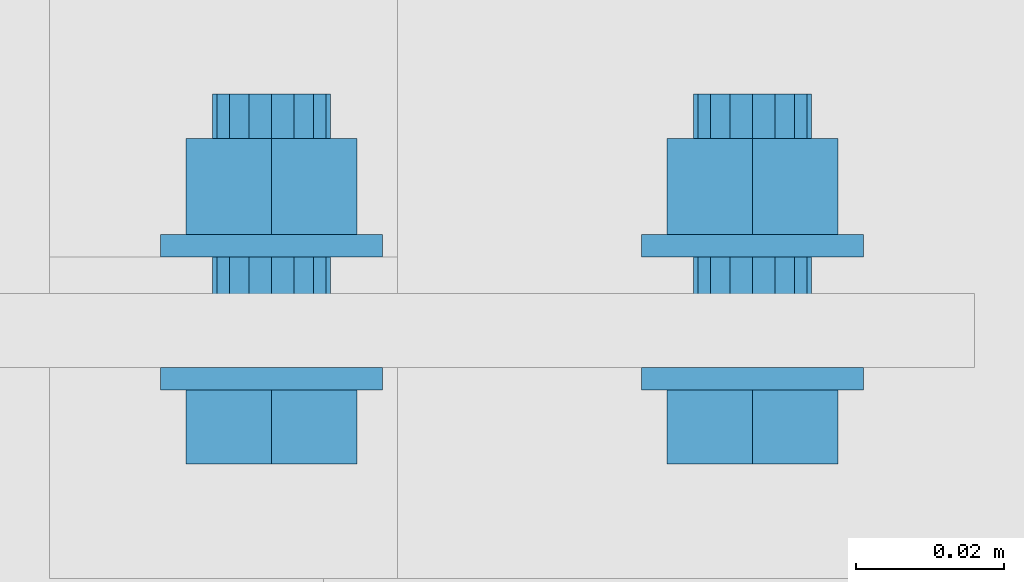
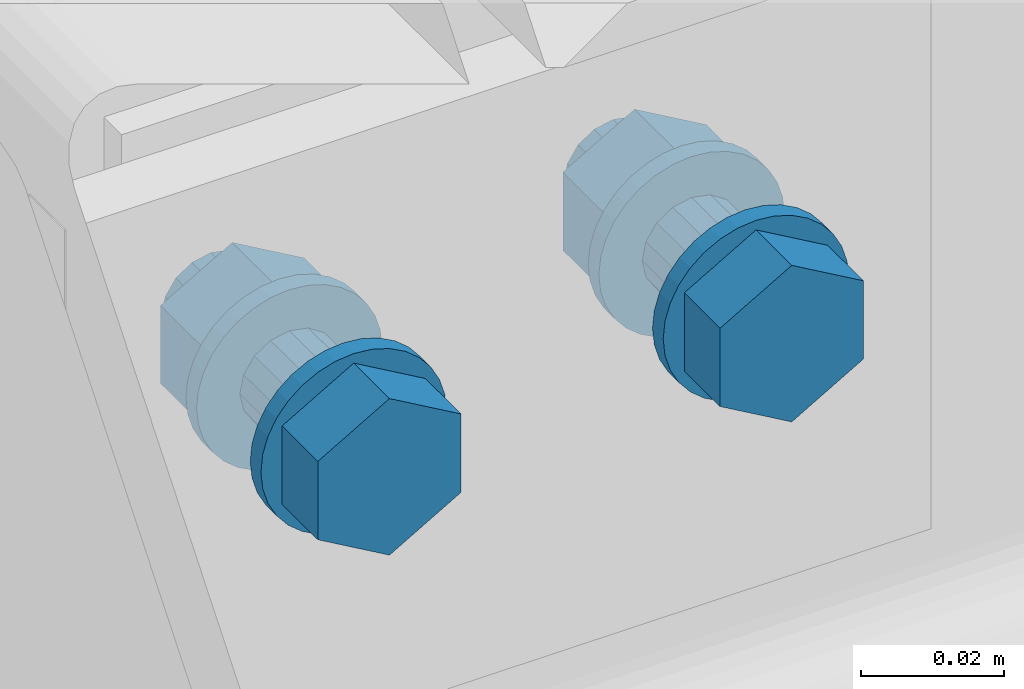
# One storey, part 171 of 410: 1 mechanical fastener.
"""IFC2X3 building model written with IfcOpenShell, lengths in millimetres."""

from ifc_helpers import new_model, entity, si_unit, converted_unit, origin_with_axes, place, context, project, spatial, faceted_brep, element, save


model = new_model("IFC2X3")

# Units and contexts
model_context = context("Model", 3, precision=1e-09, world=origin_with_axes())
ifc_project = project(units=[si_unit("LENGTHUNIT", "METRE", prefix="MILLI"), si_unit("AREAUNIT", "SQUARE_METRE"), si_unit("VOLUMEUNIT", "CUBIC_METRE"), converted_unit("PLANEANGLEUNIT", "DEGREE", entity("IfcPlaneAngleMeasure", 0.01745329), si_unit("PLANEANGLEUNIT", "RADIAN"), dimensions=[0, 0, 0, 0, 0, 0, 0])], contexts=[model_context])

# Site, building, storey
site_placement = place(None, origin_with_axes())
site = spatial("IfcSite", under=ifc_project, at=site_placement, Name="mKR Teilneubau & Sanierung BA1 - Ostfildern", CompositionType="ELEMENT")
building_placement = place(site_placement, origin_with_axes())
building = spatial("IfcBuilding", under=site, at=building_placement, Name="Struktur 1", CompositionType="ELEMENT")
storey_placement = place(building_placement, origin_with_axes())
storey = spatial("IfcBuildingStorey", under=building, at=storey_placement, Name="Default Storey", CompositionType="ELEMENT", Elevation=0.0)

# Mechanical fastener
mechanical_fastener_placement = place(None, origin_with_axes())
element("IfcMechanicalFastener", 1, at=mechanical_fastener_placement, inside=storey, ObjectType="-", NominalDiameter=16.0, NominalLength=40.0, context=model_context, shape_type="Brep", body=[
    faceted_brep([(1977.951468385, 16964.5, 5785.0), (1977.951468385, 16967.5, 5785.0), (1978.239689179, 16967.5, 5782.07364517), (1978.239689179, 16964.5, 5782.07364517), (1979.093275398, 16967.5, 5779.259748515), (1979.093275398, 16964.5, 5779.259748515), (1980.479424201, 16967.5, 5776.666446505), (1980.479424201, 16964.5, 5776.666446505), (1982.344866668, 16967.5, 5774.393398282), (1982.344866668, 16964.5, 5774.393398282), (1984.61791489, 16967.5, 5772.527955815), (1984.61791489, 16964.5, 5772.527955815), (1987.2112169, 16967.5, 5771.141807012), (1987.2112169, 16964.5, 5771.141807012), (1990.025113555, 16967.5, 5770.288220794), (1990.025113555, 16964.5, 5770.288220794), (1992.951468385, 16967.5, 5770.0), (1992.951468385, 16964.5, 5770.0), (1995.877823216, 16967.5, 5770.288220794), (1995.877823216, 16964.5, 5770.288220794), (1998.691719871, 16967.5, 5771.141807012), (1998.691719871, 16964.5, 5771.141807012), (2001.285021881, 16967.5, 5772.527955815), (2001.285021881, 16964.5, 5772.527955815), (2003.558070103, 16967.5, 5774.393398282), (2003.558070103, 16964.5, 5774.393398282), (2005.42351257, 16967.5, 5776.666446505), (2005.42351257, 16964.5, 5776.666446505), (2006.809661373, 16967.5, 5779.259748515), (2006.809661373, 16964.5, 5779.259748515), (2007.663247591, 16967.5, 5782.07364517), (2007.663247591, 16964.5, 5782.07364517), (2007.951468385, 16967.5, 5785.0), (2007.951468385, 16964.5, 5785.0), (2007.663247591, 16967.5, 5787.92635483), (2007.663247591, 16964.5, 5787.92635483), (2006.809661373, 16967.5, 5790.740251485), (2006.809661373, 16964.5, 5790.740251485), (2005.42351257, 16967.5, 5793.333553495), (2005.42351257, 16964.5, 5793.333553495), (2003.558070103, 16967.5, 5795.606601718), (2003.558070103, 16964.5, 5795.606601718), (2001.285021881, 16967.5, 5797.472044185), (2001.285021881, 16964.5, 5797.472044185), (1998.691719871, 16967.5, 5798.858192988), (1998.691719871, 16964.5, 5798.858192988), (1995.877823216, 16967.5, 5799.711779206), (1995.877823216, 16964.5, 5799.711779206), (1992.951468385, 16967.5, 5800.0), (1992.951468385, 16964.5, 5800.0), (1990.025113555, 16967.5, 5799.711779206), (1990.025113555, 16964.5, 5799.711779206), (1987.2112169, 16967.5, 5798.858192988), (1987.2112169, 16964.5, 5798.858192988), (1984.61791489, 16967.5, 5797.472044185), (1984.61791489, 16964.5, 5797.472044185), (1982.344866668, 16967.5, 5795.606601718), (1982.344866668, 16964.5, 5795.606601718), (1980.479424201, 16967.5, 5793.333553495), (1980.479424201, 16964.5, 5793.333553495), (1979.093275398, 16967.5, 5790.740251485), (1979.093275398, 16964.5, 5790.740251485), (1978.239689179, 16967.5, 5787.92635483), (1978.239689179, 16964.5, 5787.92635483)], [[[0, 1, 2, 3]], [[3, 2, 4, 5]], [[5, 4, 6, 7]], [[7, 6, 8, 9]], [[9, 8, 10, 11]], [[11, 10, 12, 13]], [[13, 12, 14, 15]], [[15, 14, 16, 17]], [[17, 16, 18, 19]], [[19, 18, 20, 21]], [[21, 20, 22, 23]], [[23, 22, 24, 25]], [[25, 24, 26, 27]], [[27, 26, 28, 29]], [[29, 28, 30, 31]], [[31, 30, 32, 33]], [[33, 32, 34, 35]], [[35, 34, 36, 37]], [[37, 36, 38, 39]], [[39, 38, 40, 41]], [[41, 40, 42, 43]], [[43, 42, 44, 45]], [[45, 44, 46, 47]], [[47, 46, 48, 49]], [[49, 48, 50, 51]], [[51, 50, 52, 53]], [[53, 52, 54, 55]], [[55, 54, 56, 57]], [[57, 56, 58, 59]], [[59, 58, 60, 61]], [[61, 60, 62, 63]], [[63, 62, 1, 0]], [[0, 3, 5, 7, 9, 11, 13, 15, 17, 19, 21, 23, 25, 27, 29, 31, 33, 35, 37, 39, 41, 43, 45, 47, 49, 51, 53, 55, 57, 59, 61, 63]], [[1, 62, 60, 58, 56, 54, 52, 50, 48, 46, 44, 42, 40, 38, 36, 34, 32, 30, 28, 26, 24, 22, 20, 18, 16, 14, 12, 10, 8, 6, 4, 2]]]),
    faceted_brep([(1912.951468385, 16964.5, 5785.0), (1912.951468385, 16967.5, 5785.0), (1913.239689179, 16967.5, 5782.07364517), (1913.239689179, 16964.5, 5782.07364517), (1914.093275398, 16967.5, 5779.259748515), (1914.093275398, 16964.5, 5779.259748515), (1915.479424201, 16967.5, 5776.666446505), (1915.479424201, 16964.5, 5776.666446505), (1917.344866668, 16967.5, 5774.393398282), (1917.344866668, 16964.5, 5774.393398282), (1919.61791489, 16967.5, 5772.527955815), (1919.61791489, 16964.5, 5772.527955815), (1922.2112169, 16967.5, 5771.141807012), (1922.2112169, 16964.5, 5771.141807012), (1925.025113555, 16967.5, 5770.288220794), (1925.025113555, 16964.5, 5770.288220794), (1927.951468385, 16967.5, 5770.0), (1927.951468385, 16964.5, 5770.0), (1930.877823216, 16967.5, 5770.288220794), (1930.877823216, 16964.5, 5770.288220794), (1933.691719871, 16967.5, 5771.141807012), (1933.691719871, 16964.5, 5771.141807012), (1936.285021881, 16967.5, 5772.527955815), (1936.285021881, 16964.5, 5772.527955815), (1938.558070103, 16967.5, 5774.393398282), (1938.558070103, 16964.5, 5774.393398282), (1940.42351257, 16967.5, 5776.666446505), (1940.42351257, 16964.5, 5776.666446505), (1941.809661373, 16967.5, 5779.259748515), (1941.809661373, 16964.5, 5779.259748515), (1942.663247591, 16967.5, 5782.07364517), (1942.663247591, 16964.5, 5782.07364517), (1942.951468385, 16967.5, 5785.0), (1942.951468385, 16964.5, 5785.0), (1942.663247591, 16967.5, 5787.92635483), (1942.663247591, 16964.5, 5787.92635483), (1941.809661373, 16967.5, 5790.740251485), (1941.809661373, 16964.5, 5790.740251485), (1940.42351257, 16967.5, 5793.333553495), (1940.42351257, 16964.5, 5793.333553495), (1938.558070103, 16967.5, 5795.606601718), (1938.558070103, 16964.5, 5795.606601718), (1936.285021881, 16967.5, 5797.472044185), (1936.285021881, 16964.5, 5797.472044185), (1933.691719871, 16967.5, 5798.858192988), (1933.691719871, 16964.5, 5798.858192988), (1930.877823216, 16967.5, 5799.711779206), (1930.877823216, 16964.5, 5799.711779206), (1927.951468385, 16967.5, 5800.0), (1927.951468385, 16964.5, 5800.0), (1925.025113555, 16967.5, 5799.711779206), (1925.025113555, 16964.5, 5799.711779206), (1922.2112169, 16967.5, 5798.858192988), (1922.2112169, 16964.5, 5798.858192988), (1919.61791489, 16967.5, 5797.472044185), (1919.61791489, 16964.5, 5797.472044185), (1917.344866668, 16967.5, 5795.606601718), (1917.344866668, 16964.5, 5795.606601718), (1915.479424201, 16967.5, 5793.333553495), (1915.479424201, 16964.5, 5793.333553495), (1914.093275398, 16967.5, 5790.740251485), (1914.093275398, 16964.5, 5790.740251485), (1913.239689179, 16967.5, 5787.92635483), (1913.239689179, 16964.5, 5787.92635483)], [[[0, 1, 2, 3]], [[3, 2, 4, 5]], [[5, 4, 6, 7]], [[7, 6, 8, 9]], [[9, 8, 10, 11]], [[11, 10, 12, 13]], [[13, 12, 14, 15]], [[15, 14, 16, 17]], [[17, 16, 18, 19]], [[19, 18, 20, 21]], [[21, 20, 22, 23]], [[23, 22, 24, 25]], [[25, 24, 26, 27]], [[27, 26, 28, 29]], [[29, 28, 30, 31]], [[31, 30, 32, 33]], [[33, 32, 34, 35]], [[35, 34, 36, 37]], [[37, 36, 38, 39]], [[39, 38, 40, 41]], [[41, 40, 42, 43]], [[43, 42, 44, 45]], [[45, 44, 46, 47]], [[47, 46, 48, 49]], [[49, 48, 50, 51]], [[51, 50, 52, 53]], [[53, 52, 54, 55]], [[55, 54, 56, 57]], [[57, 56, 58, 59]], [[59, 58, 60, 61]], [[61, 60, 62, 63]], [[63, 62, 1, 0]], [[0, 3, 5, 7, 9, 11, 13, 15, 17, 19, 21, 23, 25, 27, 29, 31, 33, 35, 37, 39, 41, 43, 45, 47, 49, 51, 53, 55, 57, 59, 61, 63]], [[1, 62, 60, 58, 56, 54, 52, 50, 48, 46, 44, 42, 40, 38, 36, 34, 32, 30, 28, 26, 24, 22, 20, 18, 16, 14, 12, 10, 8, 6, 4, 2]]]),
    faceted_brep([(2004.534558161, 16964.5, 5778.3125), (2004.534558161, 16954.5, 5778.3125), (1992.951468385, 16954.5, 5771.625), (1992.951468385, 16964.5, 5771.625), (1981.36837861, 16954.5, 5778.3125), (1981.36837861, 16964.5, 5778.3125), (1981.36837861, 16954.5, 5791.6875), (1981.36837861, 16964.5, 5791.6875), (1992.951468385, 16954.5, 5798.375), (1992.951468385, 16964.5, 5798.375), (2004.534558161, 16954.5, 5791.6875), (2004.534558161, 16964.5, 5791.6875)], [[[0, 1, 2, 3]], [[3, 2, 4, 5]], [[5, 4, 6, 7]], [[7, 6, 8, 9]], [[9, 8, 10, 11]], [[11, 10, 1, 0]], [[4, 2, 1, 10, 8, 6]], [[0, 3, 5, 7, 9, 11]]]),
    faceted_brep([(1939.534558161, 16964.5, 5778.3125), (1939.534558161, 16954.5, 5778.3125), (1927.951468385, 16954.5, 5771.625), (1927.951468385, 16964.5, 5771.625), (1916.36837861, 16954.5, 5778.3125), (1916.36837861, 16964.5, 5778.3125), (1916.36837861, 16954.5, 5791.6875), (1916.36837861, 16964.5, 5791.6875), (1927.951468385, 16954.5, 5798.375), (1927.951468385, 16964.5, 5798.375), (1939.534558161, 16954.5, 5791.6875), (1939.534558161, 16964.5, 5791.6875)], [[[0, 1, 2, 3]], [[3, 2, 4, 5]], [[5, 4, 6, 7]], [[7, 6, 8, 9]], [[9, 8, 10, 11]], [[11, 10, 1, 0]], [[4, 2, 1, 10, 8, 6]], [[0, 3, 5, 7, 9, 11]]]),
    faceted_brep([(1984.951468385, 16967.5, 5785.0), (1984.951468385, 16982.5, 5785.0), (1985.560432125, 16982.5, 5781.938532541), (1985.560432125, 16967.5, 5781.938532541), (1987.294614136, 16982.5, 5779.34314575), (1987.294614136, 16967.5, 5779.34314575), (1989.890000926, 16982.5, 5777.60896374), (1989.890000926, 16967.5, 5777.60896374), (1992.951468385, 16982.5, 5777.0), (1992.951468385, 16967.5, 5777.0), (1996.012935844, 16982.5, 5777.60896374), (1996.012935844, 16967.5, 5777.60896374), (1998.608322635, 16982.5, 5779.34314575), (1998.608322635, 16967.5, 5779.34314575), (2000.342504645, 16982.5, 5781.938532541), (2000.342504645, 16967.5, 5781.938532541), (2000.951468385, 16982.5, 5785.0), (2000.951468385, 16967.5, 5785.0), (2000.342504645, 16982.5, 5788.061467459), (2000.342504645, 16967.5, 5788.061467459), (1998.608322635, 16982.5, 5790.656854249), (1998.608322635, 16967.5, 5790.656854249), (1996.012935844, 16982.5, 5792.39103626), (1996.012935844, 16967.5, 5792.39103626), (1992.951468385, 16982.5, 5793.0), (1992.951468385, 16967.5, 5793.0), (1989.890000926, 16982.5, 5792.39103626), (1989.890000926, 16967.5, 5792.39103626), (1987.294614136, 16982.5, 5790.656854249), (1987.294614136, 16967.5, 5790.656854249), (1985.560432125, 16982.5, 5788.061467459), (1985.560432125, 16967.5, 5788.061467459)], [[[0, 1, 2, 3]], [[3, 2, 4, 5]], [[5, 4, 6, 7]], [[7, 6, 8, 9]], [[9, 8, 10, 11]], [[11, 10, 12, 13]], [[13, 12, 14, 15]], [[15, 14, 16, 17]], [[17, 16, 18, 19]], [[19, 18, 20, 21]], [[21, 20, 22, 23]], [[23, 22, 24, 25]], [[25, 24, 26, 27]], [[27, 26, 28, 29]], [[29, 28, 30, 31]], [[31, 30, 1, 0]], [[0, 3, 5, 7, 9, 11, 13, 15, 17, 19, 21, 23, 25, 27, 29, 31]], [[1, 30, 28, 26, 24, 22, 20, 18, 16, 14, 12, 10, 8, 6, 4, 2]]]),
    faceted_brep([(1919.951468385, 16967.5, 5785.0), (1919.951468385, 16982.5, 5785.0), (1920.560432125, 16982.5, 5781.938532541), (1920.560432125, 16967.5, 5781.938532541), (1922.294614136, 16982.5, 5779.34314575), (1922.294614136, 16967.5, 5779.34314575), (1924.890000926, 16982.5, 5777.60896374), (1924.890000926, 16967.5, 5777.60896374), (1927.951468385, 16982.5, 5777.0), (1927.951468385, 16967.5, 5777.0), (1931.012935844, 16982.5, 5777.60896374), (1931.012935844, 16967.5, 5777.60896374), (1933.608322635, 16982.5, 5779.34314575), (1933.608322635, 16967.5, 5779.34314575), (1935.342504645, 16982.5, 5781.938532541), (1935.342504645, 16967.5, 5781.938532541), (1935.951468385, 16982.5, 5785.0), (1935.951468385, 16967.5, 5785.0), (1935.342504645, 16982.5, 5788.061467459), (1935.342504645, 16967.5, 5788.061467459), (1933.608322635, 16982.5, 5790.656854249), (1933.608322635, 16967.5, 5790.656854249), (1931.012935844, 16982.5, 5792.39103626), (1931.012935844, 16967.5, 5792.39103626), (1927.951468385, 16982.5, 5793.0), (1927.951468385, 16967.5, 5793.0), (1924.890000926, 16982.5, 5792.39103626), (1924.890000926, 16967.5, 5792.39103626), (1922.294614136, 16982.5, 5790.656854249), (1922.294614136, 16967.5, 5790.656854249), (1920.560432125, 16982.5, 5788.061467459), (1920.560432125, 16967.5, 5788.061467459)], [[[0, 1, 2, 3]], [[3, 2, 4, 5]], [[5, 4, 6, 7]], [[7, 6, 8, 9]], [[9, 8, 10, 11]], [[11, 10, 12, 13]], [[13, 12, 14, 15]], [[15, 14, 16, 17]], [[17, 16, 18, 19]], [[19, 18, 20, 21]], [[21, 20, 22, 23]], [[23, 22, 24, 25]], [[25, 24, 26, 27]], [[27, 26, 28, 29]], [[29, 28, 30, 31]], [[31, 30, 1, 0]], [[0, 3, 5, 7, 9, 11, 13, 15, 17, 19, 21, 23, 25, 27, 29, 31]], [[1, 30, 28, 26, 24, 22, 20, 18, 16, 14, 12, 10, 8, 6, 4, 2]]]),
    faceted_brep([(1977.951468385, 16982.5, 5785.0), (1977.951468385, 16985.5, 5785.0), (1978.239689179, 16985.5, 5782.07364517), (1978.239689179, 16982.5, 5782.07364517), (1979.093275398, 16985.5, 5779.259748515), (1979.093275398, 16982.5, 5779.259748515), (1980.479424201, 16985.5, 5776.666446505), (1980.479424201, 16982.5, 5776.666446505), (1982.344866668, 16985.5, 5774.393398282), (1982.344866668, 16982.5, 5774.393398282), (1984.61791489, 16985.5, 5772.527955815), (1984.61791489, 16982.5, 5772.527955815), (1987.2112169, 16985.5, 5771.141807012), (1987.2112169, 16982.5, 5771.141807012), (1990.025113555, 16985.5, 5770.288220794), (1990.025113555, 16982.5, 5770.288220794), (1992.951468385, 16985.5, 5770.0), (1992.951468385, 16982.5, 5770.0), (1995.877823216, 16985.5, 5770.288220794), (1995.877823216, 16982.5, 5770.288220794), (1998.691719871, 16985.5, 5771.141807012), (1998.691719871, 16982.5, 5771.141807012), (2001.285021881, 16985.5, 5772.527955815), (2001.285021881, 16982.5, 5772.527955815), (2003.558070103, 16985.5, 5774.393398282), (2003.558070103, 16982.5, 5774.393398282), (2005.42351257, 16985.5, 5776.666446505), (2005.42351257, 16982.5, 5776.666446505), (2006.809661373, 16985.5, 5779.259748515), (2006.809661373, 16982.5, 5779.259748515), (2007.663247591, 16985.5, 5782.07364517), (2007.663247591, 16982.5, 5782.07364517), (2007.951468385, 16985.5, 5785.0), (2007.951468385, 16982.5, 5785.0), (2007.663247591, 16985.5, 5787.92635483), (2007.663247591, 16982.5, 5787.92635483), (2006.809661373, 16985.5, 5790.740251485), (2006.809661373, 16982.5, 5790.740251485), (2005.42351257, 16985.5, 5793.333553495), (2005.42351257, 16982.5, 5793.333553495), (2003.558070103, 16985.5, 5795.606601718), (2003.558070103, 16982.5, 5795.606601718), (2001.285021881, 16985.5, 5797.472044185), (2001.285021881, 16982.5, 5797.472044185), (1998.691719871, 16985.5, 5798.858192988), (1998.691719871, 16982.5, 5798.858192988), (1995.877823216, 16985.5, 5799.711779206), (1995.877823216, 16982.5, 5799.711779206), (1992.951468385, 16985.5, 5800.0), (1992.951468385, 16982.5, 5800.0), (1990.025113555, 16985.5, 5799.711779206), (1990.025113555, 16982.5, 5799.711779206), (1987.2112169, 16985.5, 5798.858192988), (1987.2112169, 16982.5, 5798.858192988), (1984.61791489, 16985.5, 5797.472044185), (1984.61791489, 16982.5, 5797.472044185), (1982.344866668, 16985.5, 5795.606601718), (1982.344866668, 16982.5, 5795.606601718), (1980.479424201, 16985.5, 5793.333553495), (1980.479424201, 16982.5, 5793.333553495), (1979.093275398, 16985.5, 5790.740251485), (1979.093275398, 16982.5, 5790.740251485), (1978.239689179, 16985.5, 5787.92635483), (1978.239689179, 16982.5, 5787.92635483)], [[[0, 1, 2, 3]], [[3, 2, 4, 5]], [[5, 4, 6, 7]], [[7, 6, 8, 9]], [[9, 8, 10, 11]], [[11, 10, 12, 13]], [[13, 12, 14, 15]], [[15, 14, 16, 17]], [[17, 16, 18, 19]], [[19, 18, 20, 21]], [[21, 20, 22, 23]], [[23, 22, 24, 25]], [[25, 24, 26, 27]], [[27, 26, 28, 29]], [[29, 28, 30, 31]], [[31, 30, 32, 33]], [[33, 32, 34, 35]], [[35, 34, 36, 37]], [[37, 36, 38, 39]], [[39, 38, 40, 41]], [[41, 40, 42, 43]], [[43, 42, 44, 45]], [[45, 44, 46, 47]], [[47, 46, 48, 49]], [[49, 48, 50, 51]], [[51, 50, 52, 53]], [[53, 52, 54, 55]], [[55, 54, 56, 57]], [[57, 56, 58, 59]], [[59, 58, 60, 61]], [[61, 60, 62, 63]], [[63, 62, 1, 0]], [[0, 3, 5, 7, 9, 11, 13, 15, 17, 19, 21, 23, 25, 27, 29, 31, 33, 35, 37, 39, 41, 43, 45, 47, 49, 51, 53, 55, 57, 59, 61, 63]], [[1, 62, 60, 58, 56, 54, 52, 50, 48, 46, 44, 42, 40, 38, 36, 34, 32, 30, 28, 26, 24, 22, 20, 18, 16, 14, 12, 10, 8, 6, 4, 2]]]),
    faceted_brep([(1912.951468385, 16982.5, 5785.0), (1912.951468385, 16985.5, 5785.0), (1913.239689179, 16985.5, 5782.07364517), (1913.239689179, 16982.5, 5782.07364517), (1914.093275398, 16985.5, 5779.259748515), (1914.093275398, 16982.5, 5779.259748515), (1915.479424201, 16985.5, 5776.666446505), (1915.479424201, 16982.5, 5776.666446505), (1917.344866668, 16985.5, 5774.393398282), (1917.344866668, 16982.5, 5774.393398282), (1919.61791489, 16985.5, 5772.527955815), (1919.61791489, 16982.5, 5772.527955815), (1922.2112169, 16985.5, 5771.141807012), (1922.2112169, 16982.5, 5771.141807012), (1925.025113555, 16985.5, 5770.288220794), (1925.025113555, 16982.5, 5770.288220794), (1927.951468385, 16985.5, 5770.0), (1927.951468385, 16982.5, 5770.0), (1930.877823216, 16985.5, 5770.288220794), (1930.877823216, 16982.5, 5770.288220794), (1933.691719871, 16985.5, 5771.141807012), (1933.691719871, 16982.5, 5771.141807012), (1936.285021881, 16985.5, 5772.527955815), (1936.285021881, 16982.5, 5772.527955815), (1938.558070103, 16985.5, 5774.393398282), (1938.558070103, 16982.5, 5774.393398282), (1940.42351257, 16985.5, 5776.666446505), (1940.42351257, 16982.5, 5776.666446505), (1941.809661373, 16985.5, 5779.259748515), (1941.809661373, 16982.5, 5779.259748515), (1942.663247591, 16985.5, 5782.07364517), (1942.663247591, 16982.5, 5782.07364517), (1942.951468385, 16985.5, 5785.0), (1942.951468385, 16982.5, 5785.0), (1942.663247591, 16985.5, 5787.92635483), (1942.663247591, 16982.5, 5787.92635483), (1941.809661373, 16985.5, 5790.740251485), (1941.809661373, 16982.5, 5790.740251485), (1940.42351257, 16985.5, 5793.333553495), (1940.42351257, 16982.5, 5793.333553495), (1938.558070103, 16985.5, 5795.606601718), (1938.558070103, 16982.5, 5795.606601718), (1936.285021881, 16985.5, 5797.472044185), (1936.285021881, 16982.5, 5797.472044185), (1933.691719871, 16985.5, 5798.858192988), (1933.691719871, 16982.5, 5798.858192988), (1930.877823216, 16985.5, 5799.711779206), (1930.877823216, 16982.5, 5799.711779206), (1927.951468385, 16985.5, 5800.0), (1927.951468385, 16982.5, 5800.0), (1925.025113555, 16985.5, 5799.711779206), (1925.025113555, 16982.5, 5799.711779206), (1922.2112169, 16985.5, 5798.858192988), (1922.2112169, 16982.5, 5798.858192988), (1919.61791489, 16985.5, 5797.472044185), (1919.61791489, 16982.5, 5797.472044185), (1917.344866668, 16985.5, 5795.606601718), (1917.344866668, 16982.5, 5795.606601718), (1915.479424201, 16985.5, 5793.333553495), (1915.479424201, 16982.5, 5793.333553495), (1914.093275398, 16985.5, 5790.740251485), (1914.093275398, 16982.5, 5790.740251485), (1913.239689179, 16985.5, 5787.92635483), (1913.239689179, 16982.5, 5787.92635483)], [[[0, 1, 2, 3]], [[3, 2, 4, 5]], [[5, 4, 6, 7]], [[7, 6, 8, 9]], [[9, 8, 10, 11]], [[11, 10, 12, 13]], [[13, 12, 14, 15]], [[15, 14, 16, 17]], [[17, 16, 18, 19]], [[19, 18, 20, 21]], [[21, 20, 22, 23]], [[23, 22, 24, 25]], [[25, 24, 26, 27]], [[27, 26, 28, 29]], [[29, 28, 30, 31]], [[31, 30, 32, 33]], [[33, 32, 34, 35]], [[35, 34, 36, 37]], [[37, 36, 38, 39]], [[39, 38, 40, 41]], [[41, 40, 42, 43]], [[43, 42, 44, 45]], [[45, 44, 46, 47]], [[47, 46, 48, 49]], [[49, 48, 50, 51]], [[51, 50, 52, 53]], [[53, 52, 54, 55]], [[55, 54, 56, 57]], [[57, 56, 58, 59]], [[59, 58, 60, 61]], [[61, 60, 62, 63]], [[63, 62, 1, 0]], [[0, 3, 5, 7, 9, 11, 13, 15, 17, 19, 21, 23, 25, 27, 29, 31, 33, 35, 37, 39, 41, 43, 45, 47, 49, 51, 53, 55, 57, 59, 61, 63]], [[1, 62, 60, 58, 56, 54, 52, 50, 48, 46, 44, 42, 40, 38, 36, 34, 32, 30, 28, 26, 24, 22, 20, 18, 16, 14, 12, 10, 8, 6, 4, 2]]]),
    faceted_brep([(2004.534558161, 16998.5, 5778.3125), (2004.534558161, 16985.5, 5778.3125), (1992.951468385, 16985.5, 5771.625), (1992.951468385, 16998.5, 5771.625), (1981.36837861, 16985.5, 5778.3125), (1981.36837861, 16998.5, 5778.3125), (1981.36837861, 16985.5, 5791.6875), (1981.36837861, 16998.5, 5791.6875), (1992.951468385, 16985.5, 5798.375), (1992.951468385, 16998.5, 5798.375), (2004.534558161, 16985.5, 5791.6875), (2004.534558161, 16998.5, 5791.6875)], [[[0, 1, 2, 3]], [[3, 2, 4, 5]], [[5, 4, 6, 7]], [[7, 6, 8, 9]], [[9, 8, 10, 11]], [[11, 10, 1, 0]], [[4, 2, 1, 10, 8, 6]], [[0, 3, 5, 7, 9, 11]]]),
    faceted_brep([(1939.534558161, 16998.5, 5778.3125), (1939.534558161, 16985.5, 5778.3125), (1927.951468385, 16985.5, 5771.625), (1927.951468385, 16998.5, 5771.625), (1916.36837861, 16985.5, 5778.3125), (1916.36837861, 16998.5, 5778.3125), (1916.36837861, 16985.5, 5791.6875), (1916.36837861, 16998.5, 5791.6875), (1927.951468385, 16985.5, 5798.375), (1927.951468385, 16998.5, 5798.375), (1939.534558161, 16985.5, 5791.6875), (1939.534558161, 16998.5, 5791.6875)], [[[0, 1, 2, 3]], [[3, 2, 4, 5]], [[5, 4, 6, 7]], [[7, 6, 8, 9]], [[9, 8, 10, 11]], [[11, 10, 1, 0]], [[4, 2, 1, 10, 8, 6]], [[0, 3, 5, 7, 9, 11]]]),
    faceted_brep([(1984.951468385, 16998.499675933, 5785.0), (1984.951468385, 17004.5, 5785.0), (1985.560432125, 17004.5, 5781.938532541), (1985.560432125, 16998.499675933, 5781.938532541), (1987.294614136, 17004.5, 5779.34314575), (1987.294614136, 16998.499675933, 5779.34314575), (1989.890000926, 17004.5, 5777.60896374), (1989.890000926, 16998.499675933, 5777.60896374), (1992.951468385, 17004.5, 5777.0), (1992.951468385, 16998.499675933, 5777.0), (1996.012935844, 17004.5, 5777.60896374), (1996.012935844, 16998.499675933, 5777.60896374), (1998.608322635, 17004.5, 5779.34314575), (1998.608322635, 16998.499675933, 5779.34314575), (2000.342504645, 17004.5, 5781.938532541), (2000.342504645, 16998.499675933, 5781.938532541), (2000.951468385, 17004.5, 5785.0), (2000.951468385, 16998.499675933, 5785.0), (2000.342504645, 17004.5, 5788.061467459), (2000.342504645, 16998.499675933, 5788.061467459), (1998.608322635, 17004.5, 5790.656854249), (1998.608322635, 16998.499675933, 5790.656854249), (1996.012935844, 17004.5, 5792.39103626), (1996.012935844, 16998.499675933, 5792.39103626), (1992.951468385, 17004.5, 5793.0), (1992.951468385, 16998.499675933, 5793.0), (1989.890000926, 17004.5, 5792.39103626), (1989.890000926, 16998.499675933, 5792.39103626), (1987.294614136, 17004.5, 5790.656854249), (1987.294614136, 16998.499675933, 5790.656854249), (1985.560432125, 17004.5, 5788.061467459), (1985.560432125, 16998.499675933, 5788.061467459)], [[[0, 1, 2, 3]], [[3, 2, 4, 5]], [[5, 4, 6, 7]], [[7, 6, 8, 9]], [[9, 8, 10, 11]], [[11, 10, 12, 13]], [[13, 12, 14, 15]], [[15, 14, 16, 17]], [[17, 16, 18, 19]], [[19, 18, 20, 21]], [[21, 20, 22, 23]], [[23, 22, 24, 25]], [[25, 24, 26, 27]], [[27, 26, 28, 29]], [[29, 28, 30, 31]], [[31, 30, 1, 0]], [[0, 3, 5, 7, 9, 11, 13, 15, 17, 19, 21, 23, 25, 27, 29, 31]], [[1, 30, 28, 26, 24, 22, 20, 18, 16, 14, 12, 10, 8, 6, 4, 2]]]),
    faceted_brep([(1919.951468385, 16998.499675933, 5785.0), (1919.951468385, 17004.5, 5785.0), (1920.560432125, 17004.5, 5781.938532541), (1920.560432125, 16998.499675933, 5781.938532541), (1922.294614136, 17004.5, 5779.34314575), (1922.294614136, 16998.499675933, 5779.34314575), (1924.890000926, 17004.5, 5777.60896374), (1924.890000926, 16998.499675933, 5777.60896374), (1927.951468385, 17004.5, 5777.0), (1927.951468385, 16998.499675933, 5777.0), (1931.012935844, 17004.5, 5777.60896374), (1931.012935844, 16998.499675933, 5777.60896374), (1933.608322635, 17004.5, 5779.34314575), (1933.608322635, 16998.499675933, 5779.34314575), (1935.342504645, 17004.5, 5781.938532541), (1935.342504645, 16998.499675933, 5781.938532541), (1935.951468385, 17004.5, 5785.0), (1935.951468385, 16998.499675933, 5785.0), (1935.342504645, 17004.5, 5788.061467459), (1935.342504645, 16998.499675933, 5788.061467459), (1933.608322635, 17004.5, 5790.656854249), (1933.608322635, 16998.499675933, 5790.656854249), (1931.012935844, 17004.5, 5792.39103626), (1931.012935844, 16998.499675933, 5792.39103626), (1927.951468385, 17004.5, 5793.0), (1927.951468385, 16998.499675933, 5793.0), (1924.890000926, 17004.5, 5792.39103626), (1924.890000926, 16998.499675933, 5792.39103626), (1922.294614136, 17004.5, 5790.656854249), (1922.294614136, 16998.499675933, 5790.656854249), (1920.560432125, 17004.5, 5788.061467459), (1920.560432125, 16998.499675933, 5788.061467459)], [[[0, 1, 2, 3]], [[3, 2, 4, 5]], [[5, 4, 6, 7]], [[7, 6, 8, 9]], [[9, 8, 10, 11]], [[11, 10, 12, 13]], [[13, 12, 14, 15]], [[15, 14, 16, 17]], [[17, 16, 18, 19]], [[19, 18, 20, 21]], [[21, 20, 22, 23]], [[23, 22, 24, 25]], [[25, 24, 26, 27]], [[27, 26, 28, 29]], [[29, 28, 30, 31]], [[31, 30, 1, 0]], [[0, 3, 5, 7, 9, 11, 13, 15, 17, 19, 21, 23, 25, 27, 29, 31]], [[1, 30, 28, 26, 24, 22, 20, 18, 16, 14, 12, 10, 8, 6, 4, 2]]]),
])

save(model, "model.ifc")
